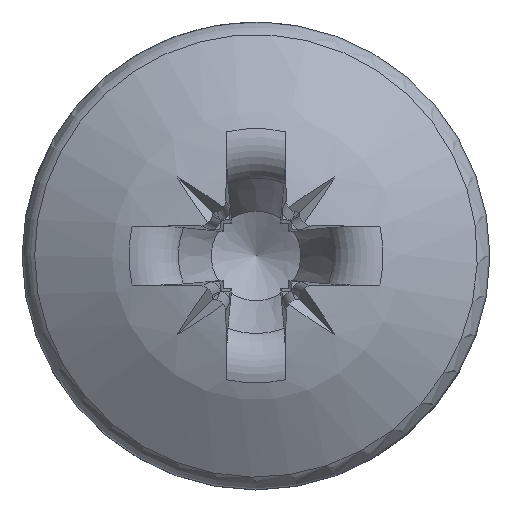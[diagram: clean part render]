
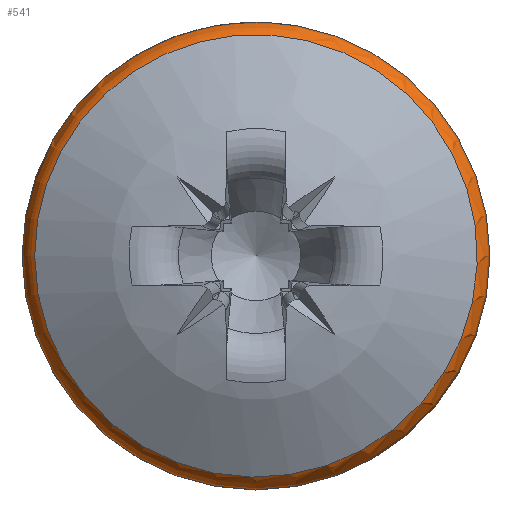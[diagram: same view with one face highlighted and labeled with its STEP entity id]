
A CAD part, top view. The second image highlights one B-rep face of the part: STEP entity #541.
In plain terms, the highlighted toroidal (fillet/blend) face has major radius 3.033 mm and minor radius 0.467 mm.
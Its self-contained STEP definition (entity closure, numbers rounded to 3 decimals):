
#447=TOROIDAL_SURFACE('',#2488,3.033,0.467);
#463=FACE_BOUND('',#849,.T.);
#464=FACE_BOUND('',#850,.T.);
#541=ADVANCED_FACE('',(#463,#464),#447,.T.);
#849=EDGE_LOOP('',(#1335));
#850=EDGE_LOOP('',(#1336));
#938=CIRCLE('',#2373,3.311);
#963=CIRCLE('',#2403,3.5);
#1335=ORIENTED_EDGE('',*,*,#1956,.F.);
#1336=ORIENTED_EDGE('',*,*,#1915,.F.);
#1709=VERTEX_POINT('',#4705);
#1748=VERTEX_POINT('',#4946);
#1915=EDGE_CURVE('',#1709,#1709,#938,.T.);
#1956=EDGE_CURVE('',#1748,#1748,#963,.T.);
#2373=AXIS2_PLACEMENT_3D('',#4704,#2506,#2507);
#2403=AXIS2_PLACEMENT_3D('',#4945,#2567,#2568);
#2488=AXIS2_PLACEMENT_3D('',#5377,#2797,#2798);
#2506=DIRECTION('',(0.,0.,1.));
#2507=DIRECTION('',(-1.,0.,0.));
#2567=DIRECTION('',(0.,0.,-1.));
#2568=DIRECTION('',(-1.,0.,0.));
#2797=DIRECTION('',(0.,0.,-1.));
#2798=DIRECTION('',(-1.,0.,0.));
#4704=CARTESIAN_POINT('',(0.,0.,2.006));
#4705=CARTESIAN_POINT('',(-3.311,0.,2.006));
#4945=CARTESIAN_POINT('',(0.,0.,1.631));
#4946=CARTESIAN_POINT('',(-3.5,0.,1.631));
#5377=CARTESIAN_POINT('',(0.,0.,1.631));
